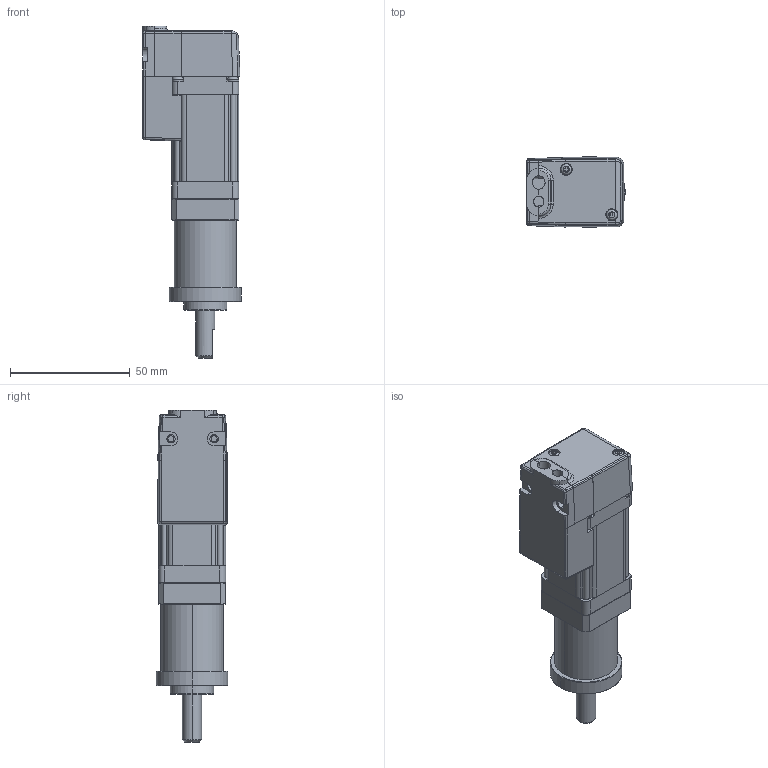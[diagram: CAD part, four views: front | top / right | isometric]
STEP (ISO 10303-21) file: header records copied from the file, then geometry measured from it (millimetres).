
FILE_DESCRIPTION(('FreeCAD Model'),'2;1');
FILE_NAME('Open CASCADE Shape Model','2023-07-27T09:18:00',('Author'),( ''),'Open CASCADE STEP processor 7.5','FreeCAD','Unknown');
FILE_SCHEMA(('AUTOMOTIVE_DESIGN { 1 0 10303 214 1 1 1 1 }'));
Length unit declared in the file: millimetre
Products named in the file (15): RMJ0231; Body; Body001; Body002; Body003; Body004; Body005; Body006; 1; 2; Shapes; Shapes001; Shapes002; Shapes003; Shapes004
Assembly tree (14 placements, depth 2):
  RMJ0231
    Body
    Body001
    Body002
    Body003
    Body004
    Body005
    Body006
    1
    2
    Shapes
    Shapes001
    Shapes002
    Shapes003
    Shapes004
Bounding box: 41.07 x 30 x 138.47 mm (x, y, z)
Volume: 59729.1 mm3; surface area: 33909.8 mm2
Topology: 14 solids, 15 shells, 616 faces, 1604 edges, 1023 vertices
Faces by surface type: plane 271, cylinder 266, bspline 31, cone 18, sphere 18, torus 12
Full cylindrical faces by diameter (mm): 2.5 x12, 4.5 x6, 5 x2, 18 x1, 20 x1, 22 x2
Entity records: 62506 total; most frequent: CARTESIAN_POINT 30848, DIRECTION 5801, LINE 3244, VECTOR 3244, ORIENTED_EDGE 3174, PCURVE 3174, DEFINITIONAL_REPRESENTATION 3174, EDGE_CURVE 1587
